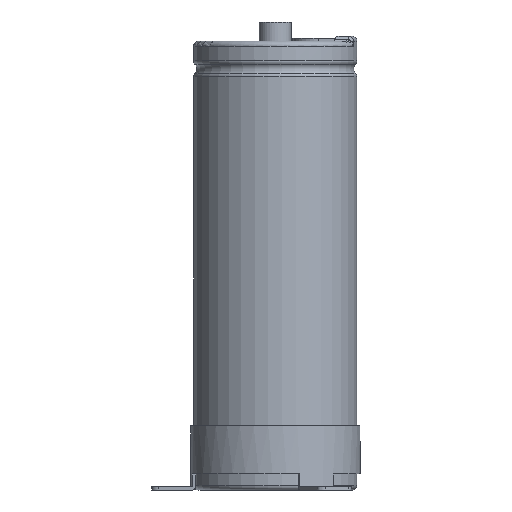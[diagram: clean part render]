
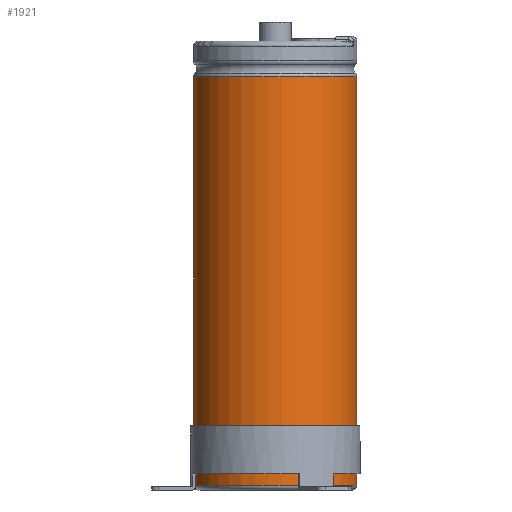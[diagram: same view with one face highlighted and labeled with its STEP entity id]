
A CAD part, front view. The second image highlights one B-rep face of the part: STEP entity #1921.
In plain terms, the highlighted cylindrical face has radius 25.5 mm (diameter 51 mm), a partial arc.
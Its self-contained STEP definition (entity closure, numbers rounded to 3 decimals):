
#940=LINE('',#9285,#1178);
#941=LINE('',#9289,#1179);
#1178=VECTOR('',#6925,1.);
#1179=VECTOR('',#6928,1.);
#1452=FACE_OUTER_BOUND('',#2362,.T.);
#1577=CYLINDRICAL_SURFACE('',#5769,25.5);
#1921=ADVANCED_FACE('',(#1452),#1577,.T.);
#2362=EDGE_LOOP('',(#3435,#3436,#3437,#3438));
#3435=ORIENTED_EDGE('',*,*,#4849,.T.);
#3436=ORIENTED_EDGE('',*,*,#4850,.T.);
#3437=ORIENTED_EDGE('',*,*,#4851,.F.);
#3438=ORIENTED_EDGE('',*,*,#4852,.F.);
#4222=VERTEX_POINT('',#9278);
#4224=VERTEX_POINT('',#9282);
#4225=VERTEX_POINT('',#9286);
#4226=VERTEX_POINT('',#9288);
#4849=EDGE_CURVE('',#4222,#4224,#5258,.T.);
#4850=EDGE_CURVE('',#4224,#4225,#940,.T.);
#4851=EDGE_CURVE('',#4226,#4225,#5259,.T.);
#4852=EDGE_CURVE('',#4222,#4226,#941,.T.);
#5258=CIRCLE('',#5766,25.5);
#5259=CIRCLE('',#5768,25.5);
#5766=AXIS2_PLACEMENT_3D('',#9283,#6921,#6922);
#5768=AXIS2_PLACEMENT_3D('',#9287,#6926,#6927);
#5769=AXIS2_PLACEMENT_3D('',#9290,#6929,#6930);
#6921=DIRECTION('',(0.,0.,-1.));
#6922=DIRECTION('',(0.,1.,0.));
#6925=DIRECTION('',(0.,0.,-1.));
#6926=DIRECTION('',(0.,0.,-1.));
#6927=DIRECTION('',(0.,1.,0.));
#6928=DIRECTION('',(0.,0.,-1.));
#6929=DIRECTION('',(0.,0.,-1.));
#6930=DIRECTION('',(0.,1.,0.));
#9278=CARTESIAN_POINT('',(3.989,25.186,128.9));
#9282=CARTESIAN_POINT('',(-3.989,25.186,128.9));
#9283=CARTESIAN_POINT('',(0.,0.,128.9));
#9285=CARTESIAN_POINT('',(-3.989,25.186,128.9));
#9286=CARTESIAN_POINT('',(-3.989,25.186,1.5));
#9287=CARTESIAN_POINT('',(0.,0.,1.5));
#9288=CARTESIAN_POINT('',(3.989,25.186,1.5));
#9289=CARTESIAN_POINT('',(3.989,25.186,128.9));
#9290=CARTESIAN_POINT('',(0.,0.,0.));
